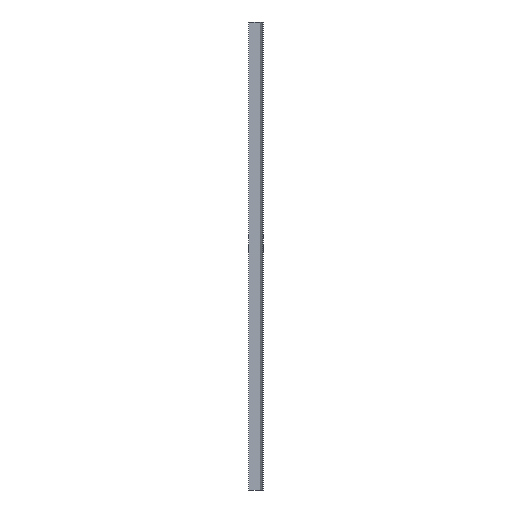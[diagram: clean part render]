
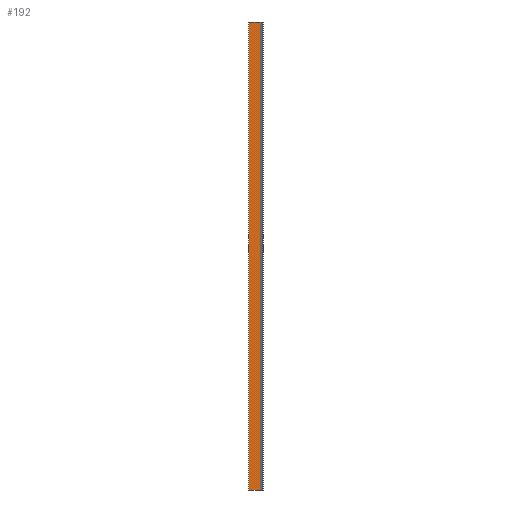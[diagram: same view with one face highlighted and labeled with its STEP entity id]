
A CAD part, left-side view. The second image highlights one B-rep face of the part: STEP entity #192.
In plain terms, the highlighted planar face has unit normal (-1, 0, 0).
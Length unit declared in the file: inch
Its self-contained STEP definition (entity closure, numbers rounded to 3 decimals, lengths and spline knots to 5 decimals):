
#3 = CARTESIAN_POINT ( 'NONE',  ( 0.01532, 0.4876, 78.74016 ) ) ;
#16 = DIRECTION ( 'NONE',  ( 0., 1., 0. ) ) ;
#17 = LINE ( 'NONE', #3, #395 ) ;
#19 = VERTEX_POINT ( 'NONE', #125 ) ;
#54 = VERTEX_POINT ( 'NONE', #548 ) ;
#79 = LINE ( 'NONE', #532, #485 ) ;
#85 = DIRECTION ( 'NONE',  ( 0., 0., -1. ) ) ;
#88 = DIRECTION ( 'NONE',  ( 1., 0., 0. ) ) ;
#103 = ORIENTED_EDGE ( 'NONE', *, *, #587, .T. ) ;
#125 = CARTESIAN_POINT ( 'NONE',  ( 0.01532, 0.49507, 0. ) ) ;
#153 = CARTESIAN_POINT ( 'NONE',  ( 0.01532, 0.4876, 0. ) ) ;
#165 = LINE ( 'NONE', #357, #554 ) ;
#192 = ADVANCED_FACE ( 'NONE', ( #223 ), #586, .F. ) ;
#215 = DIRECTION ( 'NONE',  ( 0., 0., -1. ) ) ;
#223 = FACE_OUTER_BOUND ( 'NONE', #284, .T. ) ;
#224 = AXIS2_PLACEMENT_3D ( 'NONE', #255, #88, #16 ) ;
#238 = ORIENTED_EDGE ( 'NONE', *, *, #397, .F. ) ;
#255 = CARTESIAN_POINT ( 'NONE',  ( 0.01532, 0.4876, 78.74016 ) ) ;
#284 = EDGE_LOOP ( 'NONE', ( #103, #410, #238, #451 ) ) ;
#338 = CARTESIAN_POINT ( 'NONE',  ( 0.01532, 0.49507, 78.74016 ) ) ;
#357 = CARTESIAN_POINT ( 'NONE',  ( 0.01532, 2.4876, 78.74016 ) ) ;
#365 = LINE ( 'NONE', #153, #580 ) ;
#394 = CARTESIAN_POINT ( 'NONE',  ( 0.01532, 2.4876, 0. ) ) ;
#395 = VECTOR ( 'NONE', #465, 39.37008 ) ;
#397 = EDGE_CURVE ( 'NONE', #54, #517, #17, .T. ) ;
#410 = ORIENTED_EDGE ( 'NONE', *, *, #454, .F. ) ;
#451 = ORIENTED_EDGE ( 'NONE', *, *, #530, .T. ) ;
#454 = EDGE_CURVE ( 'NONE', #517, #19, #79, .T. ) ;
#465 = DIRECTION ( 'NONE',  ( 0., -1., 0. ) ) ;
#477 = DIRECTION ( 'NONE',  ( 0., -1., 0. ) ) ;
#480 = VERTEX_POINT ( 'NONE', #394 ) ;
#485 = VECTOR ( 'NONE', #215, 39.37008 ) ;
#517 = VERTEX_POINT ( 'NONE', #338 ) ;
#530 = EDGE_CURVE ( 'NONE', #54, #480, #165, .T. ) ;
#532 = CARTESIAN_POINT ( 'NONE',  ( 0.01532, 0.49507, 78.74016 ) ) ;
#548 = CARTESIAN_POINT ( 'NONE',  ( 0.01532, 2.4876, 78.74016 ) ) ;
#554 = VECTOR ( 'NONE', #85, 39.37008 ) ;
#580 = VECTOR ( 'NONE', #477, 39.37008 ) ;
#586 = PLANE ( 'NONE',  #224 ) ;
#587 = EDGE_CURVE ( 'NONE', #480, #19, #365, .T. ) ;
